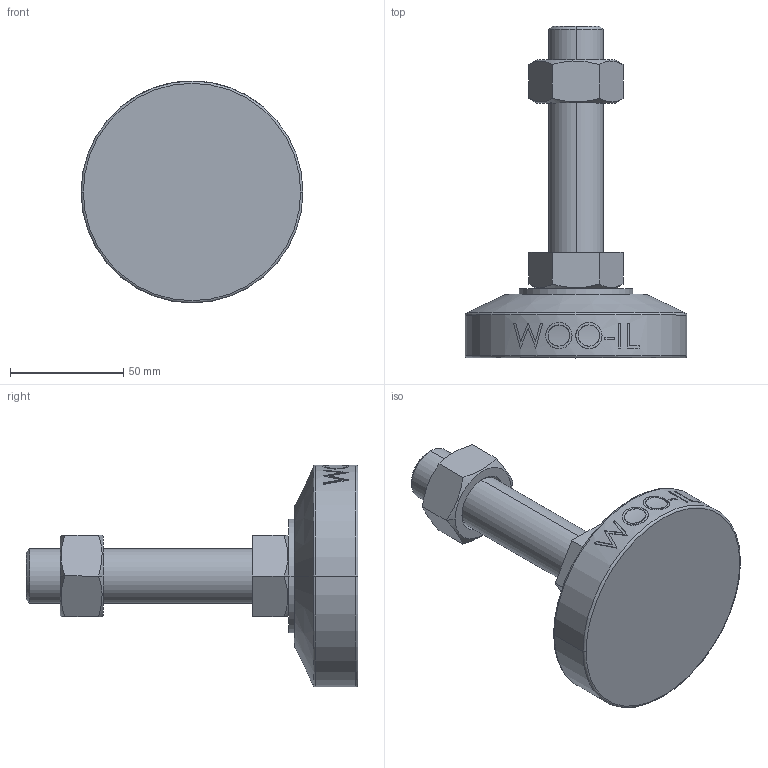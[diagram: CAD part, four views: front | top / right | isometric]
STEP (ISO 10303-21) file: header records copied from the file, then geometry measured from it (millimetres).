
FILE_DESCRIPTION (( 'STEP AP214' ), '1' );
FILE_NAME ('MFB98-M24-100.step', '2022-06-27T08:36:32', ( '' ), ( '' ), 'SwSTEP 2.0', 'SolidWorks 2019', '' );
FILE_SCHEMA (( 'AUTOMOTIVE_DESIGN' ));
Length unit declared in the file: millimetre
Products named in the file (1): MFB98-M24-100
Bounding box: 98 x 146.5 x 98 mm (x, y, z)
Volume: 270765.1 mm3; surface area: 38332.7 mm2
Topology: 3 solids, 3 shells, 97 faces, 225 edges, 144 vertices
Faces by surface type: plane 47, cylinder 16, bspline 16, cone 14, torus 4
Entity records: 4451 total; most frequent: CARTESIAN_POINT 2321, ORIENTED_EDGE 450, DIRECTION 385, EDGE_CURVE 225, AXIS2_PLACEMENT_3D 144, VERTEX_POINT 144, EDGE_LOOP 109, VECTOR 97
